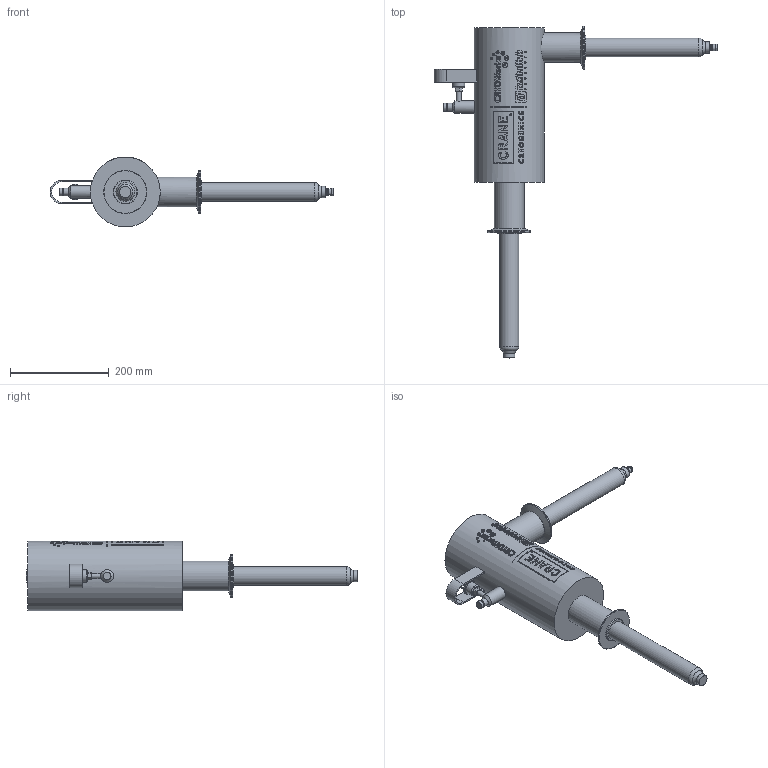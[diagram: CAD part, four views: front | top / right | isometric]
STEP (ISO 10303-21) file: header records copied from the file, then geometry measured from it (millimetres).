
FILE_DESCRIPTION (( 'STEP AP203' ), '1' );
FILE_NAME ('CA00410-TF.step', '2025-12-17T20:01:54', ( '' ), ( '' ), 'SwSTEP 2.0', 'SolidWorks 2023', '' );
FILE_SCHEMA (( 'CONFIG_CONTROL_DESIGN' ));
Length unit declared in the file: inch
Products named in the file (1): CA00410-TF
Bounding box: 574 x 672.3 x 141.3 mm (x, y, z)
Volume: 6078213.6 mm3; surface area: 304445.6 mm2
Topology: 1 solids, 1 shells, 675 faces, 1684 edges, 1114 vertices
Faces by surface type: plane 415, cylinder 178, bspline 53, torus 22, cone 7
Full cylindrical faces by diameter (mm): 1.494 x1, 1.636 x1, 1.778 x1, 1.935 x4, 2.039 x1, 2.302 x1, 2.967 x1, 3.071 x1, 3.409 x1, 3.632 x1, 3.807 x1, 4.009 x1, 4.573 x1, 6.177 x1, 7.63 x1, 7.722 x1, 9.232 x1, 10.16 x1, 10.236 x2, 10.287 x1, 10.749 x1, 12.7 x1, 15.748 x2, 23.012 x2, 24.638 x1, 25.4 x1, 26.873 x1, 30.988 x1, 38.227 x2, 48.59 x2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
Entity records: 27979 total; most frequent: CARTESIAN_POINT 13388, ORIENTED_EDGE 3186, DIRECTION 2550, EDGE_CURVE 1593, VERTEX_POINT 1103, AXIS2_PLACEMENT_3D 869, EDGE_LOOP 860, LINE 812
